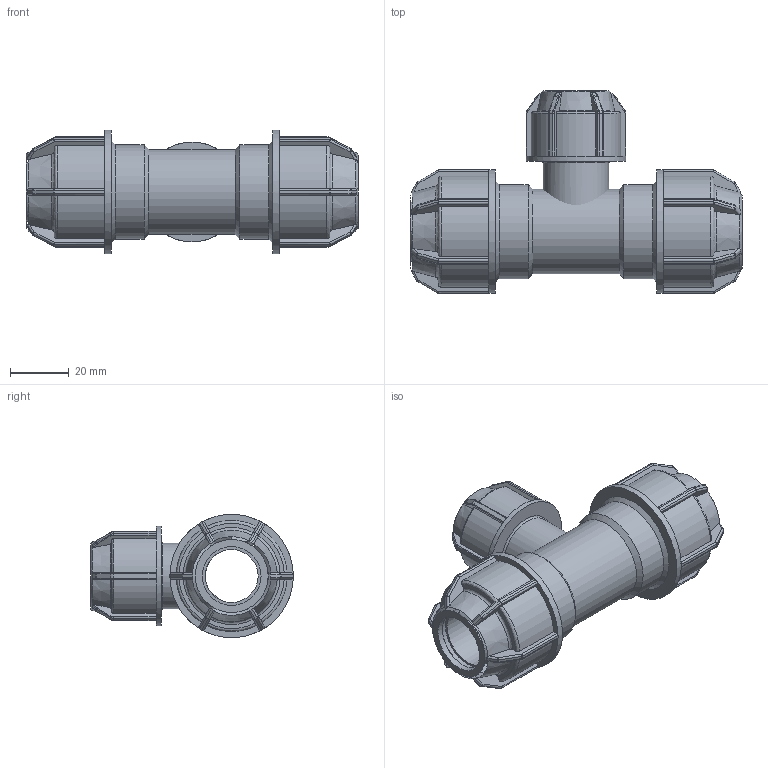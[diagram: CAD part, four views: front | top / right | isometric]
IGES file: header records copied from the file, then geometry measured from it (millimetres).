
Global section: file name: 143400020016.ipt; native system: Autodesk Inventor 2015; preprocessor: unknown; author: KIM; date: 20180409.131216; units: millimetre
Bounding box: 113 x 69 x 42 mm (x, y, z)
Volume: 83049.6 mm3; surface area: 30112.6 mm2
Topology: 2 solids, 2 shells, 600 faces, 1476 edges, 868 vertices
Faces by surface type: plane 289, cylinder 170, revolution 76, sphere 48, cone 17
Full cylindrical faces by diameter (mm): 13.6 x1, 22.4 x1, 28.8 x1, 32 x2, 34 x1, 42 x2
